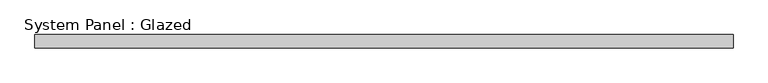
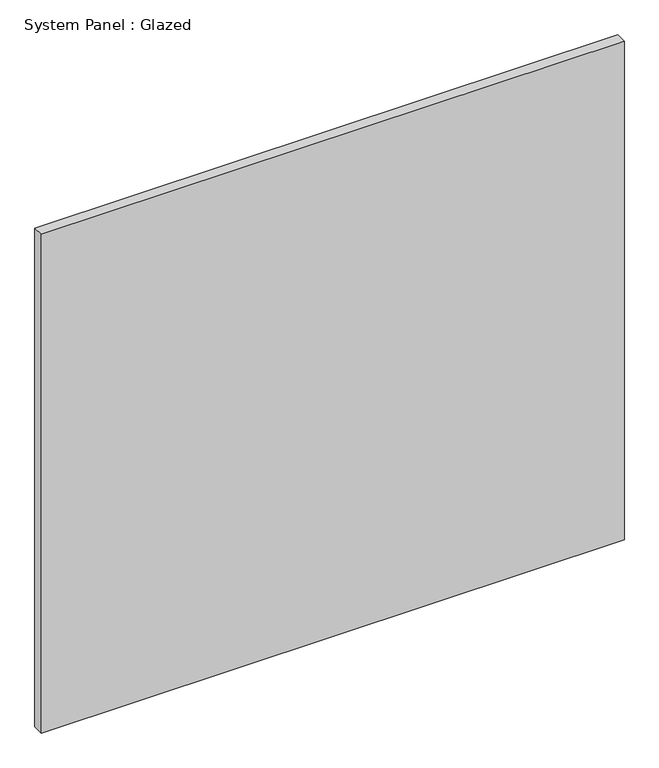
"""IFC4 building model written with IfcOpenShell, lengths in millimetres: plate geometry, System Panel : Glazed."""

from ifc_helpers import new_model, si_unit, origin, origin_with_axes, place, context, project, spatial, polyline, outline, extrude, source, transform, mapped, element, save


def system_panel_glazed_33a55230(model_context):
    return source(origin(), model_context, "Body", "SweptSolid", [
        extrude(outline(polyline([(663.7606048, -49.5), (-663.7606048, -49.5), (-663.7606048, -24.5), (663.7606048, -24.5), (663.7606048, -49.5)])), origin_with_axes(), (0.0, 0.0, 1.0), 1200.0),
    ])


if __name__ == "__main__":
    model = new_model("IFC4")
    model_context = context("Model", 3, world=origin())
    ifc_project = project(units=[si_unit("LENGTHUNIT", "METRE", prefix="MILLI")], contexts=[model_context])
    site = spatial("IfcSite", under=ifc_project)
    building = spatial("IfcBuilding", under=site)
    placement = place(None, origin())
    system_panel_glazed_shape = system_panel_glazed_33a55230(model_context)
    element("IfcPlate", 1, ObjectType="System Panel : Glazed", at=placement, inside=building, context=model_context, shape_type="MappedRepresentation", body=[
        mapped(system_panel_glazed_shape, transform((0.0, 0.0, 0.0), x_axis=(1.0, 0.0, 0.0), y_axis=(0.0, 1.0, 0.0), z_axis=(0.0, 0.0, 1.0))),
    ])
    save(model, "model.ifc")
